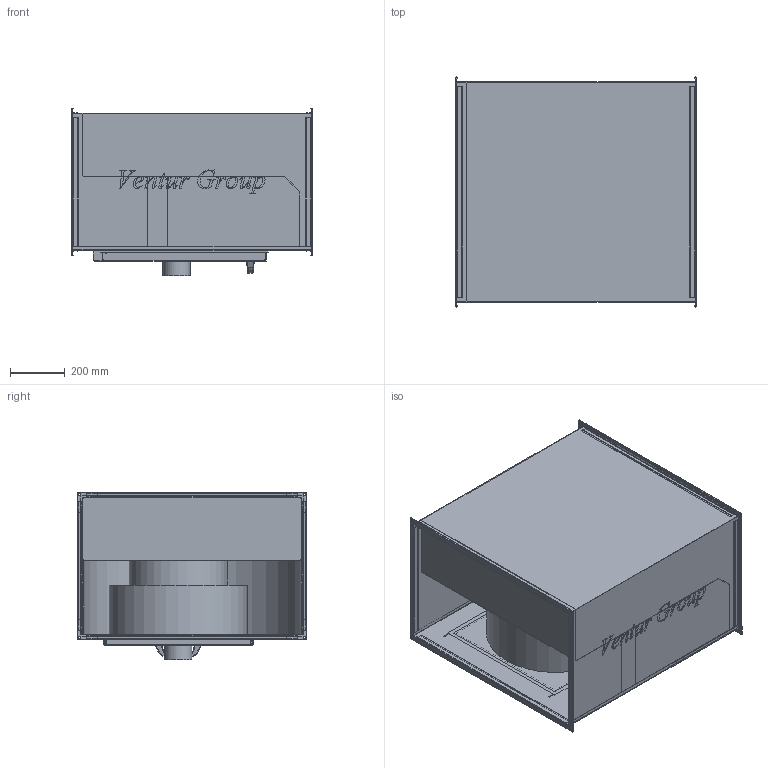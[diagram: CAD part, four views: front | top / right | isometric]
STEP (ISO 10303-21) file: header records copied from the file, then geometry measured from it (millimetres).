
FILE_DESCRIPTION(/* description */ (''),/* implementation_level */ '2;1');
FILE_NAME(/* name */ 'C:\Users\M.Janczarek\Documents\Modele uproszczone\IBF\IBF4_500T 41010200-01\IBF4_500T 41010200-01\IBF4_500T 41010200-01.stp',/* time_stamp */ '2018-03-26T14:58:15+02:00',/* author */ ('M.Janczarek'),/* organization */ (''),/* preprocessor_version */ 'ST-DEVELOPER v16.5',/* originating_system */ 'Autodesk Inventor 2017',/* authorisation */ '');
FILE_SCHEMA (('AUTOMOTIVE_DESIGN { 1 0 10303 214 3 1 1 }'));
Length unit declared in the file: millimetre
Products named in the file (1): IBF4_500T 41010200-01
Bounding box: 880 x 841 x 614.6 mm (x, y, z)
Volume: 53654555 mm3; surface area: 8954963.6 mm2
Topology: 1 solids, 1 shells, 1205 faces, 3665 edges, 2452 vertices
Faces by surface type: plane 740, bspline 270, cylinder 195
Full cylindrical faces by diameter (mm): 9 x8, 100 x1, 170 x1, 360 x1, 505 x1
Entity records: 43275 total; most frequent: CARTESIAN_POINT 11009, ORIENTED_EDGE 7208, DIRECTION 5435, EDGE_CURVE 3604, LINE 2695, VECTOR 2695, VERTEX_POINT 2370, AXIS2_PLACEMENT_3D 1370
